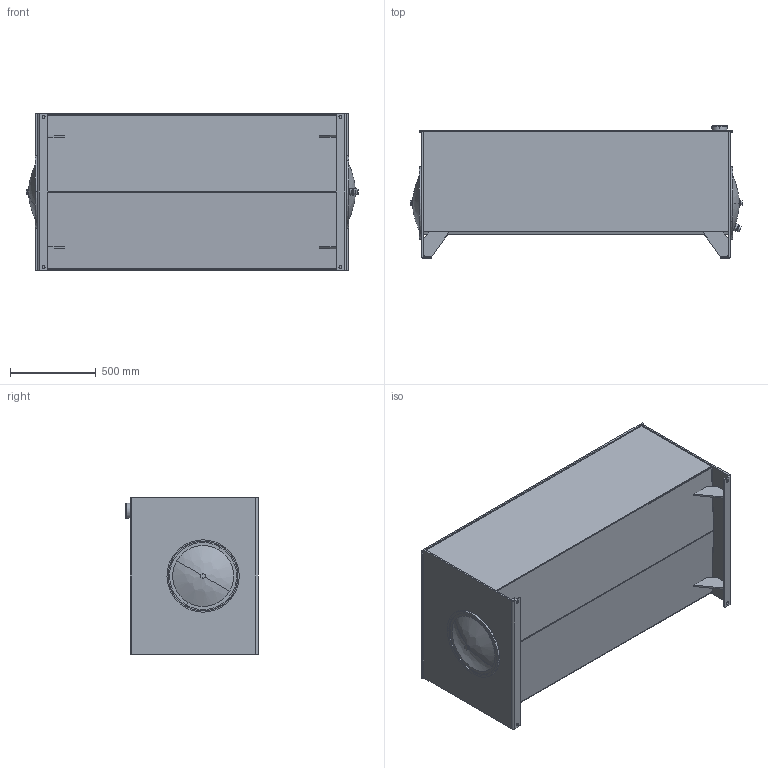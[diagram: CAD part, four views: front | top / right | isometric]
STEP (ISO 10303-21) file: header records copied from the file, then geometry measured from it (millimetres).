
FILE_DESCRIPTION (( 'STEP AP214' ), '1' );
FILE_NAME ('T1-200.STEP', '2019-05-28T11:30:25', ( '' ), ( '' ), 'SwSTEP 2.0', 'SolidWorks 2013', '' );
FILE_SCHEMA (( 'AUTOMOTIVE_DESIGN' ));
Length unit declared in the file: inch
Products named in the file (17): TL-EC-16; 16.00 END COVER; TL-ECD-16; DRAIN; 16.00 END COVER WITH DRAIN; 0.625 - 11 BAFFLE NUT; 0.625 - 11 HEX BOLT; CRUSH WASHER; 16.00 GASKET; FILLER RISER; T1-200-GST; T1-200-BFL; T1-200-BDY; T1-200-EB; T1-200-EA; T1-200-LD; T1-200
Assembly tree (23 placements, depth 3):
  T1-200
    T1-200-LD
    T1-200-EA
    T1-200-EB
    T1-200-BDY
    T1-200-BFL
    T1-200-GST  x4
    FILLER RISER
    TL-ECD-16
      16.00 GASKET
      CRUSH WASHER
      0.625 - 11 HEX BOLT
      0.625 - 11 BAFFLE NUT
      16.00 END COVER WITH DRAIN
      DRAIN
    TL-EC-16
      16.00 END COVER
      16.00 GASKET
      CRUSH WASHER
      0.625 - 11 HEX BOLT
      0.625 - 11 BAFFLE NUT
Bounding box: 1938.01 x 771.52 x 914.4 mm (x, y, z)
Volume: 45898248.2 mm3; surface area: 16348841.4 mm2
Topology: 22 solids, 22 shells, 294 faces, 676 edges, 434 vertices
Faces by surface type: plane 165, cylinder 109, cone 10, bspline 8, torus 2
Entity records: 8553 total; most frequent: CARTESIAN_POINT 1469, DIRECTION 1242, ORIENTED_EDGE 1076, EDGE_CURVE 538, AXIS2_PLACEMENT_3D 465, VERTEX_POINT 342, LINE 312, VECTOR 312
